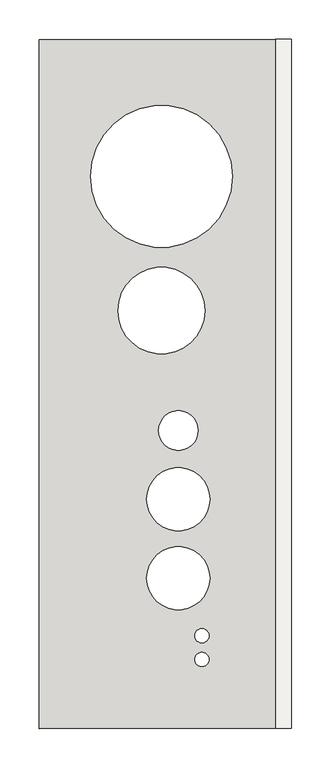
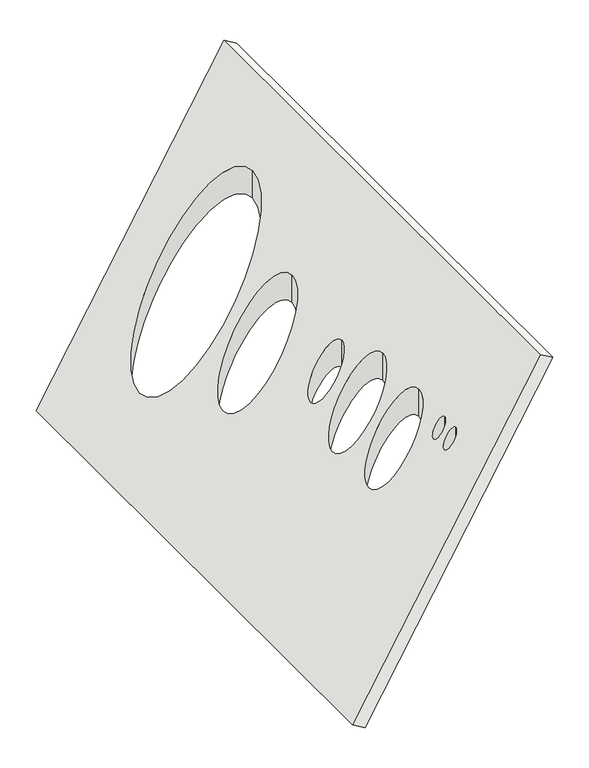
"""IFC4 building model written with IfcOpenShell, lengths in millimetres: covering geometry, NLRS_50_GM_WPB_Delta Discovery Air_roofboard-SH_M&G : roofboard DDA."""

from ifc_helpers import new_model, si_unit, frame, origin, place, context, project, spatial, polyline, ellipse_curve, source, transform, mapped, element, save
from ifc_brep_helpers import plane_surface, revolved_surface, advanced_brep


def covering_44cbcef2(model_context):
    return source(origin(), model_context, "Body", "AdvancedBrep", [
        advanced_brep(
        [(-129.8314157, -436.5, -270.8746084), (-129.8314157, 436.5, -270.8746084), (169.6685843, 436.5, 247.8746084), (169.6685843, -436.5, 247.8746084), (47.5, -349.0, 36.2724134), (65.5, -349.0, 67.4493279), (47.5, -319.0, 36.2724134), (65.5, -319.0, 67.4493279), (-13.5, -146.0, -69.3826859), (66.5, -146.0, 69.1813787), (1.5, -59.0, -43.4019238), (51.5, -59.0, 43.2006166), (-13.5, -246.0, -69.3826859), (66.5, -246.0, 69.1813787), (-50.0, 93.0, -132.6025404), (60.0, 93.0, 57.9230485), (-85.0, 263.0, -193.2243186), (95.0, 263.0, 118.5448267), (-149.75, -436.5, -259.3746084), (149.75, -436.5, 259.3746084), (149.75, 436.5, 259.3746084), (-149.75, 436.5, -259.3746084), (65.5, -349.0, 113.4493279), (47.5, -349.0, 82.2724134), (65.5, -319.0, 113.4493279), (47.5, -319.0, 82.2724134), (66.5, -146.0, 115.1813787), (-13.5, -146.0, -23.3826859), (51.5, -59.0, 89.2006166), (1.5, -59.0, 2.5980762), (66.5, -246.0, 115.1813787), (-13.5, -246.0, -23.3826859), (60.0, 93.0, 103.9230485), (-50.0, 93.0, -86.6025404), (95.0, 263.0, 164.5448267), (-85.0, 263.0, -147.2243186)],
        [
            (0, 1),
            (1, 2),
            (2, 3),
            (3, 0),
            (4, 5, ellipse_curve(frame((56.5, -349.0, 51.8608706), z_axis=(-0.8660254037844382, 0.0, 0.5000000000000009), x_axis=(0.5000000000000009, 0.0, 0.866025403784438)), 18.0, 9.0)),
            (5, 4, ellipse_curve(frame((56.5, -349.0, 51.8608706), z_axis=(-0.8660254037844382, 0.0, 0.5000000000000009), x_axis=(0.5000000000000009, 0.0, 0.866025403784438)), 18.0, 9.0)),
            (6, 7, ellipse_curve(frame((56.5, -319.0, 51.8608706), z_axis=(-0.8660254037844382, 0.0, 0.5000000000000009), x_axis=(0.5000000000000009, 0.0, 0.866025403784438)), 18.0, 9.0)),
            (7, 6, ellipse_curve(frame((56.5, -319.0, 51.8608706), z_axis=(-0.8660254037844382, 0.0, 0.5000000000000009), x_axis=(0.5000000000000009, 0.0, 0.866025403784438)), 18.0, 9.0)),
            (8, 9, ellipse_curve(frame((26.5, -146.0, -0.1006536), z_axis=(-0.8660254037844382, 0.0, 0.5000000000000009), x_axis=(0.5000000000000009, 0.0, 0.866025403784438)), 80.0, 40.0)),
            (9, 8, ellipse_curve(frame((26.5, -146.0, -0.1006536), z_axis=(-0.8660254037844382, 0.0, 0.5000000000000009), x_axis=(0.5000000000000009, 0.0, 0.866025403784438)), 80.0, 40.0)),
            (10, 11, ellipse_curve(frame((26.5, -59.0, -0.1006536), z_axis=(-0.8660254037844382, 0.0, 0.5000000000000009), x_axis=(0.5000000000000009, 0.0, 0.866025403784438)), 50.0, 25.0)),
            (11, 10, ellipse_curve(frame((26.5, -59.0, -0.1006536), z_axis=(-0.8660254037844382, 0.0, 0.5000000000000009), x_axis=(0.5000000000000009, 0.0, 0.866025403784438)), 50.0, 25.0)),
            (12, 13, ellipse_curve(frame((26.5, -246.0, -0.1006536), z_axis=(-0.8660254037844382, 0.0, 0.5000000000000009), x_axis=(0.5000000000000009, 0.0, 0.866025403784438)), 80.0, 40.0)),
            (13, 12, ellipse_curve(frame((26.5, -246.0, -0.1006536), z_axis=(-0.8660254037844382, 0.0, 0.5000000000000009), x_axis=(0.5000000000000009, 0.0, 0.866025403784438)), 80.0, 40.0)),
            (14, 15, ellipse_curve(frame((5.0, 93.0, -37.339746), z_axis=(-0.8660254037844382, 0.0, 0.5000000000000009), x_axis=(0.5000000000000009, 0.0, 0.866025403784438)), 110.0, 55.0)),
            (15, 14, ellipse_curve(frame((5.0, 93.0, -37.339746), z_axis=(-0.8660254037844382, 0.0, 0.5000000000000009), x_axis=(0.5000000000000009, 0.0, 0.866025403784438)), 110.0, 55.0)),
            (16, 17, ellipse_curve(frame((5.0, 263.0, -37.339746), z_axis=(-0.8660254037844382, 0.0, 0.5000000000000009), x_axis=(0.5000000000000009, 0.0, 0.866025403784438)), 180.0, 90.0)),
            (17, 16, ellipse_curve(frame((5.0, 263.0, -37.339746), z_axis=(-0.8660254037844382, 0.0, 0.5000000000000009), x_axis=(0.5000000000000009, 0.0, 0.866025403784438)), 180.0, 90.0)),
            (18, 19),
            (19, 20),
            (20, 21),
            (21, 18),
            (22, 23, ellipse_curve(frame((56.5, -349.0, 97.8608706), z_axis=(0.8660254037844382, 0.0, -0.5000000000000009), x_axis=(0.5000000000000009, 0.0, 0.866025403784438)), 18.0, 9.0)),
            (23, 22, ellipse_curve(frame((56.5, -349.0, 97.8608706), z_axis=(0.8660254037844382, 0.0, -0.5000000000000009), x_axis=(0.5000000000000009, 0.0, 0.866025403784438)), 18.0, 9.0)),
            (24, 25, ellipse_curve(frame((56.5, -319.0, 97.8608706), z_axis=(0.8660254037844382, 0.0, -0.5000000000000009), x_axis=(0.5000000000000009, 0.0, 0.866025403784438)), 18.0, 9.0)),
            (25, 24, ellipse_curve(frame((56.5, -319.0, 97.8608706), z_axis=(0.8660254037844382, 0.0, -0.5000000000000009), x_axis=(0.5000000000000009, 0.0, 0.866025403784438)), 18.0, 9.0)),
            (26, 27, ellipse_curve(frame((26.5, -146.0, 45.8993464), z_axis=(0.8660254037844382, 0.0, -0.5000000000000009), x_axis=(0.5000000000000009, 0.0, 0.866025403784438)), 80.0, 40.0)),
            (27, 26, ellipse_curve(frame((26.5, -146.0, 45.8993464), z_axis=(0.8660254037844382, 0.0, -0.5000000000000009), x_axis=(0.5000000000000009, 0.0, 0.866025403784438)), 80.0, 40.0)),
            (28, 29, ellipse_curve(frame((26.5, -59.0, 45.8993464), z_axis=(0.8660254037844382, 0.0, -0.5000000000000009), x_axis=(0.5000000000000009, 0.0, 0.866025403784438)), 50.0, 25.0)),
            (29, 28, ellipse_curve(frame((26.5, -59.0, 45.8993464), z_axis=(0.8660254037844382, 0.0, -0.5000000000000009), x_axis=(0.5000000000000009, 0.0, 0.866025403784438)), 50.0, 25.0)),
            (30, 31, ellipse_curve(frame((26.5, -246.0, 45.8993464), z_axis=(0.8660254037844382, 0.0, -0.5000000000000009), x_axis=(0.5000000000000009, 0.0, 0.866025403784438)), 80.0, 40.0)),
            (31, 30, ellipse_curve(frame((26.5, -246.0, 45.8993464), z_axis=(0.8660254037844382, 0.0, -0.5000000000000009), x_axis=(0.5000000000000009, 0.0, 0.866025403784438)), 80.0, 40.0)),
            (32, 33, ellipse_curve(frame((5.0, 93.0, 8.660254), z_axis=(0.8660254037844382, 0.0, -0.5000000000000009), x_axis=(0.5000000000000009, 0.0, 0.866025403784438)), 110.0, 55.0)),
            (33, 32, ellipse_curve(frame((5.0, 93.0, 8.660254), z_axis=(0.8660254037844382, 0.0, -0.5000000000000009), x_axis=(0.5000000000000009, 0.0, 0.866025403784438)), 110.0, 55.0)),
            (34, 35, ellipse_curve(frame((5.0, 263.0, 8.660254), z_axis=(0.8660254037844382, 0.0, -0.5000000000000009), x_axis=(0.5000000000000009, 0.0, 0.866025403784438)), 180.0, 90.0)),
            (35, 34, ellipse_curve(frame((5.0, 263.0, 8.660254), z_axis=(0.8660254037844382, 0.0, -0.5000000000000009), x_axis=(0.5000000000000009, 0.0, 0.866025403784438)), 180.0, 90.0)),
            (3, 19),
            (18, 0),
            (2, 20),
            (1, 21),
            (4, 23),
            (22, 5),
            (6, 25),
            (24, 7),
            (8, 27),
            (26, 9),
            (10, 29),
            (28, 11),
            (12, 31),
            (30, 13),
            (14, 33),
            (32, 15),
            (16, 35),
            (34, 17),
        ],
        [
            plane_surface(frame((-129.8314157, -436.5, -270.8746084), z_axis=(0.8660254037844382, 0.0, -0.5000000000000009), x_axis=(-0.5000000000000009, 0.0, -0.8660254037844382))),
            plane_surface(frame((-149.75, -436.5, -259.3746084), z_axis=(-0.8660254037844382, 0.0, 0.5000000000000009), x_axis=(0.5000000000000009, 0.0, 0.8660254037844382))),
            plane_surface(frame((-149.75, -436.5, -259.3746084), z_axis=(0.0, -1.0, 0.0), x_axis=(0.8660254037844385, 0.0, -0.5000000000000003))),
            plane_surface(frame((149.75, -436.5, 259.3746084), z_axis=(0.49999999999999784, 0.0, 0.8660254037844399), x_axis=(0.8660254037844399, 0.0, -0.49999999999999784))),
            plane_surface(frame((149.75, 436.5, 259.3746084), z_axis=(0.0, 1.0, 0.0), x_axis=(0.8660254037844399, 0.0, -0.49999999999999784))),
            plane_surface(frame((-149.75, 436.5, -259.3746084), z_axis=(-0.5000000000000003, 0.0, -0.8660254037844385), x_axis=(0.8660254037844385, 0.0, -0.5000000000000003))),
            revolved_surface(polyline([(65.5, -349.0, 113.44932790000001), (65.5, -349.0, 36.2724133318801)]), (56.5, -349.0, -300.0), (0.0, 0.0, 1.0)),
            revolved_surface(polyline([(65.5, -319.0, 113.4493279), (65.5, -319.0, 36.27241333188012)]), (56.5, -319.0, 0.0), (0.0, 0.0, 1.0)),
            revolved_surface(polyline([(66.5, -146.0, 115.18137870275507), (66.5, -146.0, -69.38268590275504)]), (26.5, -146.0, -300.0), (0.0, 0.0, 1.0)),
            revolved_surface(polyline([(51.5, -59.0, 89.2006166), (51.5, -59.0, -43.4019238)]), (26.5, -59.0, 0.0), (0.0, 0.0, 1.0)),
            revolved_surface(polyline([(66.5, -246.0, 115.18137870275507), (66.5, -246.0, -69.38268590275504)]), (26.5, -246.0, -300.0), (0.0, 0.0, 1.0)),
            revolved_surface(polyline([(60.0, 93.0, 103.9230485), (60.0, 93.0, -132.60254041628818)]), (5.0, 93.0, -300.0), (0.0, 0.0, 1.0)),
            revolved_surface(polyline([(95.0, 263.0, 164.5448267), (95.0, 263.0, -193.22431868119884)]), (5.0, 263.0, 0.0), (0.0, 0.0, 1.0)),
        ],
        [
            (0, [[1, 2, 3, 4], [5, 6], [7, 8], [9, 10], [11, 12], [13, 14], [15, 16], [17, 18]]),
            (1, [[19, 20, 21, 22], [23, 24], [25, 26], [27, 28], [29, 30], [31, 32], [33, 34], [35, 36]]),
            (2, [[-4, 37, -19, 38]]),
            (3, [[-3, 39, -20, -37]]),
            (4, [[-2, 40, -21, -39]]),
            (5, [[-1, -38, -22, -40]]),
            (6, [[41, -23, 42, -5]]),
            (6, [[-41, -6, -42, -24]]),
            (7, [[43, -25, 44, -7]]),
            (7, [[-43, -8, -44, -26]]),
            (8, [[45, -27, 46, -9]]),
            (8, [[-45, -10, -46, -28]]),
            (9, [[47, -29, 48, -11]]),
            (9, [[-47, -12, -48, -30]]),
            (10, [[49, -31, 50, -13]]),
            (10, [[-49, -14, -50, -32]]),
            (11, [[51, -33, 52, -15]]),
            (11, [[-51, -16, -52, -34]]),
            (12, [[53, -35, 54, -17]]),
            (12, [[-53, -18, -54, -36]]),
        ],
    ),
    ])


if __name__ == "__main__":
    model = new_model("IFC4")
    model_context = context("Model", 3, world=origin())
    ifc_project = project(units=[si_unit("LENGTHUNIT", "METRE", prefix="MILLI")], contexts=[model_context])
    site = spatial("IfcSite", under=ifc_project)
    building = spatial("IfcBuilding", under=site)
    placement = place(None, origin())
    covering_shape = covering_44cbcef2(model_context)
    element("IfcCovering", 1, ObjectType="NLRS_50_GM_WPB_Delta Discovery Air_roofboard-SH_M&G : roofboard DDA", at=placement, inside=building, context=model_context, shape_type="MappedRepresentation", body=[
        mapped(covering_shape, transform((0.0, 0.0, 0.0), x_axis=(1.0, 0.0, 0.0), y_axis=(0.0, 1.0, 0.0), z_axis=(0.0, 0.0, 1.0))),
    ])
    save(model, "model.ifc")
